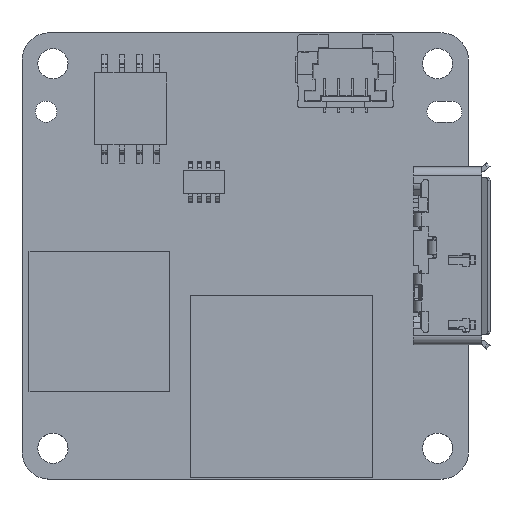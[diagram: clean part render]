
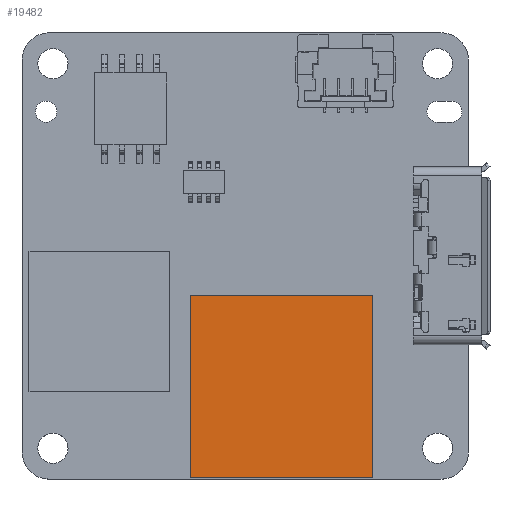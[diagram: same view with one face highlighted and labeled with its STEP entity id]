
A CAD part, top view. The second image highlights one B-rep face of the part: STEP entity #19482.
In plain terms, the highlighted planar face has unit normal (0, 0, 1).
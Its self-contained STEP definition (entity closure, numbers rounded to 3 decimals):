
#3220=DIRECTION('',(1.,0.,0.));
#3221=VECTOR('',#3220,13.254);
#3222=CARTESIAN_POINT('',(-3.957,-2.869,
9.718));
#3223=LINE('',#3222,#3221);
#3224=DIRECTION('',(0.,-1.,0.));
#3225=VECTOR('',#3224,13.254);
#3226=CARTESIAN_POINT('',(9.298,-2.869,9.718));
#3227=LINE('',#3226,#3225);
#3228=DIRECTION('',(-1.,0.,0.));
#3229=VECTOR('',#3228,13.254);
#3230=CARTESIAN_POINT('',(9.298,-16.123,9.718));
#3231=LINE('',#3230,#3229);
#3232=DIRECTION('',(0.,1.,0.));
#3233=VECTOR('',#3232,13.254);
#3234=CARTESIAN_POINT('',(-3.957,-16.123,9.718));
#3235=LINE('',#3234,#3233);
#12283=CARTESIAN_POINT('',(9.298,-2.869,
9.718));
#12284=VERTEX_POINT('',#12283);
#12285=CARTESIAN_POINT('',(-3.957,-2.869,
9.718));
#12286=VERTEX_POINT('',#12285);
#12289=CARTESIAN_POINT('',(9.298,-16.123,9.718));
#12290=VERTEX_POINT('',#12289);
#12293=CARTESIAN_POINT('',(-3.957,-16.123,9.718));
#12294=VERTEX_POINT('',#12293);
#19471=CARTESIAN_POINT('',(2.67,-9.496,
9.718));
#19472=DIRECTION('',(0.,0.,1.));
#19473=DIRECTION('',(-1.,0.,0.));
#19474=AXIS2_PLACEMENT_3D('',#19471,#19472,#19473);
#19475=PLANE('',#19474);
#19476=ORIENTED_EDGE('',*,*,#19423,.T.);
#19477=ORIENTED_EDGE('',*,*,#19438,.T.);
#19478=ORIENTED_EDGE('',*,*,#19452,.T.);
#19479=ORIENTED_EDGE('',*,*,#19465,.T.);
#19480=EDGE_LOOP('',(#19476,#19477,#19478,#19479));
#19481=FACE_OUTER_BOUND('',#19480,.F.);
#19482=ADVANCED_FACE('',(#19481),#19475,.T.);
#19423=EDGE_CURVE('',#12286,#12284,#3223,.T.);
#19438=EDGE_CURVE('',#12284,#12290,#3227,.T.);
#19452=EDGE_CURVE('',#12290,#12294,#3231,.T.);
#19465=EDGE_CURVE('',#12294,#12286,#3235,.T.);
